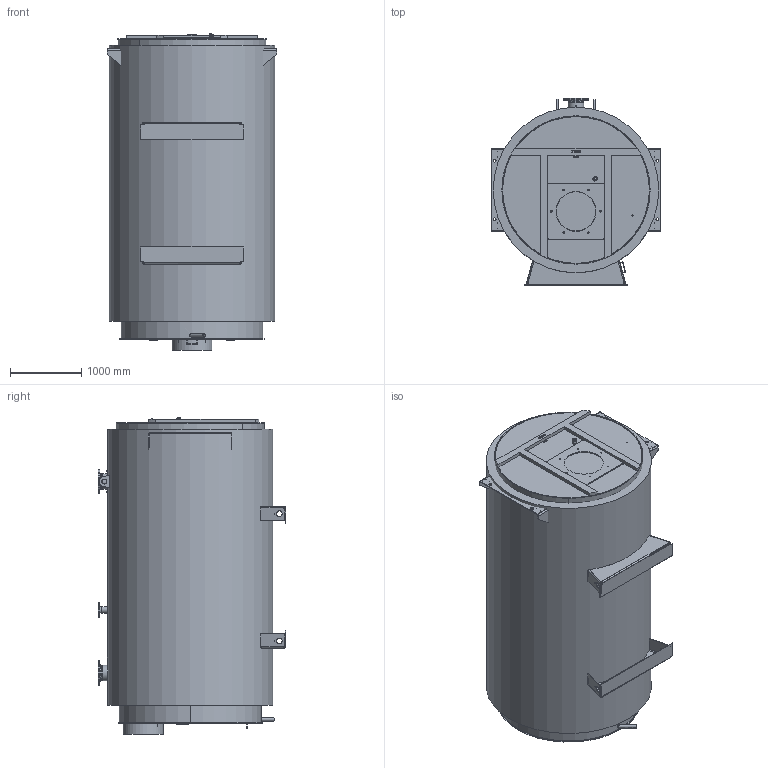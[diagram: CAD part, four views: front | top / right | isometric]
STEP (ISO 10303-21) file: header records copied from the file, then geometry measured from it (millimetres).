
FILE_DESCRIPTION(('TFLEX Exchange Step'),'2;1');
FILE_NAME('M22A009_7933494_H001.stp', '2024-07-31T17:12:54+03:00',('kort'),('Unknown organisation'),'TFLEX Exchange 2024.2','T-FLEX CAD','Unknown authorisation');
FILE_SCHEMA( ('AUTOMOTIVE_DESIGN { 1 0 10303 214 1 1 1 1 }') );
Length unit declared in the file: millimetre
Products named in the file (1): Nodes
Bounding box: 2380 x 2630 x 4440.64 mm (x, y, z)
Volume: 17624250697.2 mm3; surface area: 74991257.8 mm2
Topology: 108 solids, 108 shells, 1235 faces, 3076 edges, 2080 vertices
Faces by surface type: plane 618, cylinder 398, bspline 119, cone 73, torus 21, sphere 6
Full cylindrical faces by diameter (mm): 1 x16, 2.2 x4, 3.2 x4, 3.3 x4, 4 x4, 6.5 x4, 10 x9, 11.45 x1, 12 x12, 13 x4, 14 x4, 14.63 x6, 15.5 x1, 16 x10, 18 x8, 18.63 x2, 22 x30, 24 x4, 35 x3, 40 x2, 41.1 x1, 41.45 x1, 42 x4, 44.8 x1, 45 x4, 47.8 x1, 48 x1, 48.3 x1, 70 x2, 78.9 x1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
Entity records: 46626 total; most frequent: CARTESIAN_POINT 16469, ORIENTED_EDGE 6108, DIRECTION 6046, EDGE_CURVE 3054, AXIS2_PLACEMENT_3D 2231, VERTEX_POINT 2080, VECTOR 1584, LINE 1584
